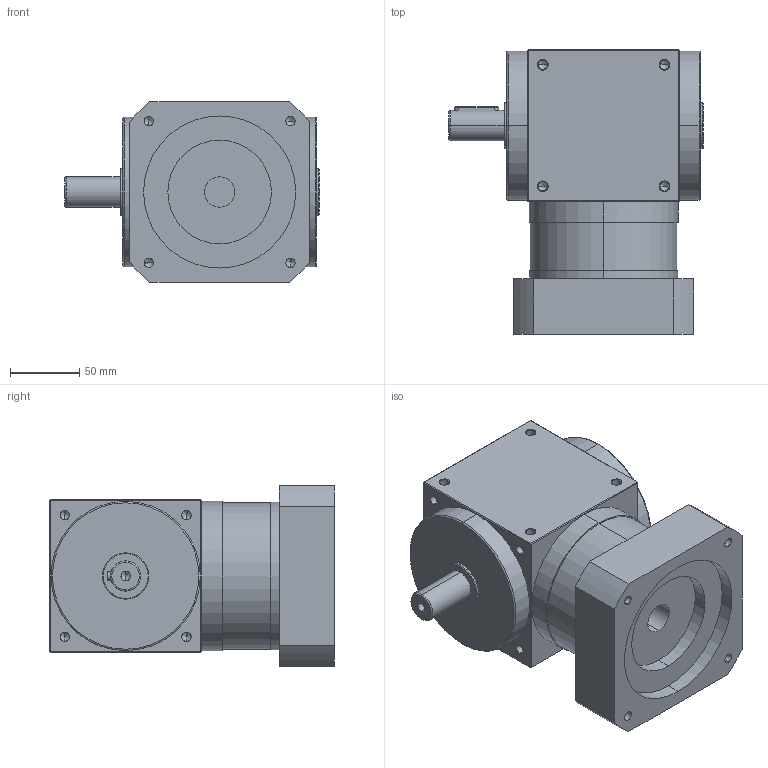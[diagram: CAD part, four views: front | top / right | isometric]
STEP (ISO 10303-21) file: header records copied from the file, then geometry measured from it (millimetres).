
FILE_DESCRIPTION (( 'STEP AP214' ), '1' );
FILE_NAME ('AT110-FL1-001--22-110-145-M8.STEP', '2020-02-18T05:20:19', ( 'User' ), ( 'Far123' ), 'SwSTEP 2.0', 'SolidWorks 2015', '' );
FILE_SCHEMA (( 'AUTOMOTIVE_DESIGN' ));
Length unit declared in the file: millimetre
Products named in the file (1): AT110-FL1-001--22-110-145-M8
Bounding box: 184 x 206 x 130.62 mm (x, y, z)
Volume: 2620049.9 mm3; surface area: 156389.6 mm2
Topology: 1 solids, 1 shells, 235 faces, 596 edges, 327 vertices
Faces by surface type: cylinder 118, cone 64, plane 47, torus 6
Entity records: 7702 total; most frequent: CARTESIAN_POINT 1507, ORIENTED_EDGE 1092, DIRECTION 1084, EDGE_CURVE 546, AXIS2_PLACEMENT_3D 416, VERTEX_POINT 327, EDGE_LOOP 273, LINE 252
